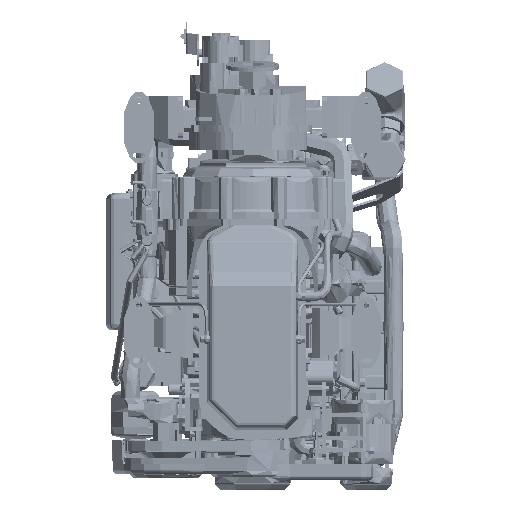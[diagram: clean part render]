
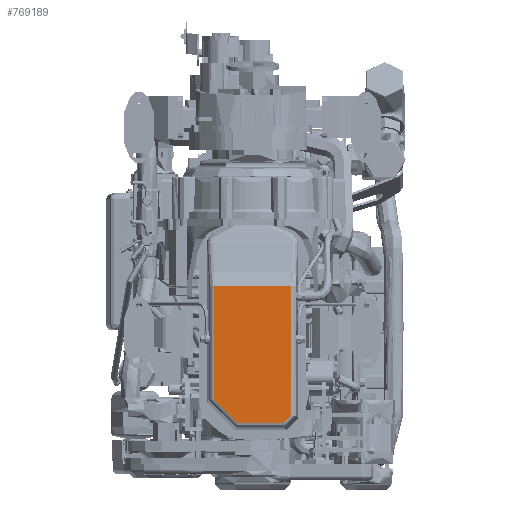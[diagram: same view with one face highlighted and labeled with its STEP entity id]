
A CAD part, front view. The second image highlights one B-rep face of the part: STEP entity #769189.
In plain terms, the highlighted planar face has unit normal (0, -1, 0).
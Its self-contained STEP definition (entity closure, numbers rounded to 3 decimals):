
#764341=CARTESIAN_POINT('',(97.264,-240.,79.766));
#764355=DIRECTION('',(1.,0.,0.));
#764356=VECTOR('',#764355,194.528);
#764357=CARTESIAN_POINT('',(-97.264,-240.,79.766));
#764358=LINE('',#764357,#764356);
#764471=DIRECTION('',(0.,0.,1.));
#764472=VECTOR('',#764471,287.254);
#764473=CARTESIAN_POINT('',(-97.264,-240.,
-207.489));
#764474=LINE('',#764473,#764472);
#764516=DIRECTION('',(-1.,0.,
0.));
#764517=VECTOR('',#764516,120.578);
#764518=CARTESIAN_POINT('',(80.275,-240.,
-264.455));
#764519=LINE('',#764518,#764517);
#764520=CARTESIAN_POINT('',(80.275,-240.,
-264.455));
#764521=CARTESIAN_POINT('',(80.71,-240.,
-264.455));
#764522=CARTESIAN_POINT('',(81.753,-240.,
-264.415));
#764523=CARTESIAN_POINT('',(83.392,-240.,
-264.2));
#764524=CARTESIAN_POINT('',(85.266,-240.,
-263.746));
#764525=CARTESIAN_POINT('',(87.16,-240.,
-263.046));
#764526=CARTESIAN_POINT('',(89.024,-240.,
-262.081));
#764527=CARTESIAN_POINT('',(90.755,-240.,
-260.895));
#764528=CARTESIAN_POINT('',(93.272,-240.,
-258.667));
#764529=CARTESIAN_POINT('',(95.117,-240.,
-256.039));
#764530=CARTESIAN_POINT('',(96.263,-240.,
-253.28));
#764531=CARTESIAN_POINT('',(96.724,-240.,
-251.808));
#764532=CARTESIAN_POINT('',(97.049,-240.,
-250.302));
#764533=CARTESIAN_POINT('',(97.227,-240.,
-248.849));
#764534=CARTESIAN_POINT('',(97.264,-240.,-247.902));
#764535=CARTESIAN_POINT('',(97.264,-240.,
-247.467));
#764537=CARTESIAN_POINT('',(-97.264,-240.,
-207.489));
#764538=CARTESIAN_POINT('',(-97.264,-240.,
-208.029));
#764539=CARTESIAN_POINT('',(-97.243,-240.,
-209.551));
#764540=CARTESIAN_POINT('',(-97.107,-240.,
-212.046));
#764541=CARTESIAN_POINT('',(-96.694,-240.,
-215.937));
#764542=CARTESIAN_POINT('',(-95.805,-240.,
-220.746));
#764543=CARTESIAN_POINT('',(-94.151,-240.,
-226.38));
#764544=CARTESIAN_POINT('',(-90.178,-240.,
-236.084));
#764545=CARTESIAN_POINT('',(-83.846,-240.,
-245.089));
#764546=CARTESIAN_POINT('',(-75.4,-240.,
-252.549));
#764547=CARTESIAN_POINT('',(-69.591,-240.,
-256.522));
#764548=CARTESIAN_POINT('',(-63.339,-240.,
-259.752));
#764549=CARTESIAN_POINT('',(-56.56,-240.,
-262.251));
#764550=CARTESIAN_POINT('',(-50.593,-240.,
-263.616));
#764551=CARTESIAN_POINT('',(-45.651,-240.,
-264.245));
#764552=CARTESIAN_POINT('',(-42.628,-240.,
-264.43));
#764553=CARTESIAN_POINT('',(-40.842,-240.,
-264.455));
#764554=CARTESIAN_POINT('',(-40.303,-240.,
-264.455));
#764690=DIRECTION('',(0.,0.,-1.));
#764691=VECTOR('',#764690,327.232);
#764692=CARTESIAN_POINT('',(97.264,-240.,79.766));
#764693=LINE('',#764692,#764691);
#767526=VERTEX_POINT('',#764341);
#767527=CARTESIAN_POINT('',(-97.264,-240.,79.766));
#767528=VERTEX_POINT('',#767527);
#767529=CARTESIAN_POINT('',(80.275,-240.,
-264.455));
#767530=CARTESIAN_POINT('',(-40.303,-240.,
-264.455));
#767531=VERTEX_POINT('',#767529);
#767532=VERTEX_POINT('',#767530);
#767533=VERTEX_POINT('',#764537);
#767534=CARTESIAN_POINT('',(97.264,-240.,
-247.467));
#767535=VERTEX_POINT('',#767534);
#769174=CARTESIAN_POINT('',(-114.821,-240.,9.77));
#769175=DIRECTION('',(0.,-1.,0.));
#769176=DIRECTION('',(-1.,0.,0.));
#769177=AXIS2_PLACEMENT_3D('',#769174,#769175,#769176);
#769178=PLANE('',#769177);
#769180=ORIENTED_EDGE('',*,*,#769179,.F.);
#769181=ORIENTED_EDGE('',*,*,#769167,.T.);
#769182=ORIENTED_EDGE('',*,*,#769124,.F.);
#769183=ORIENTED_EDGE('',*,*,#768899,.T.);
#769184=ORIENTED_EDGE('',*,*,#768432,.T.);
#769186=ORIENTED_EDGE('',*,*,#769185,.T.);
#769187=EDGE_LOOP('',(#769180,#769181,#769182,#769183,#769184,#769186));
#769188=FACE_OUTER_BOUND('',#769187,.F.);
#769189=ADVANCED_FACE('',(#769188),#769178,.T.);
#764536=B_SPLINE_CURVE_WITH_KNOTS('',3,(#764520,#764521,#764522,#764523,#764524,
#764525,#764526,#764527,#764528,#764529,#764530,#764531,#764532,#764533,#764534,
#764535),.UNSPECIFIED.,.F.,.F.,(4,1,1,1,1,1,1,1,1,1,1,1,1,4),(0.,
0.049,0.118,0.186,0.265,
0.344,0.422,0.501,0.72,
0.777,0.835,0.893,0.951,1.),
.UNSPECIFIED.);
#764555=B_SPLINE_CURVE_WITH_KNOTS('',3,(#764537,#764538,#764539,#764540,#764541,
#764542,#764543,#764544,#764545,#764546,#764547,#764548,#764549,#764550,#764551,
#764552,#764553,#764554),.UNSPECIFIED.,.F.,.F.,(4,1,1,1,1,1,1,1,1,1,1,1,1,1,1,
4),(0.,0.018,0.051,0.084,
0.15,0.215,0.281,0.5,
0.578,0.657,0.736,0.815,
0.898,0.94,0.982,1.),.UNSPECIFIED.);
#768432=EDGE_CURVE('',#767528,#767526,#764358,.T.);
#768899=EDGE_CURVE('',#767533,#767528,#764474,.T.);
#769124=EDGE_CURVE('',#767533,#767532,#764555,.T.);
#769167=EDGE_CURVE('',#767531,#767532,#764519,.T.);
#769179=EDGE_CURVE('',#767531,#767535,#764536,.T.);
#769185=EDGE_CURVE('',#767526,#767535,#764693,.T.);
